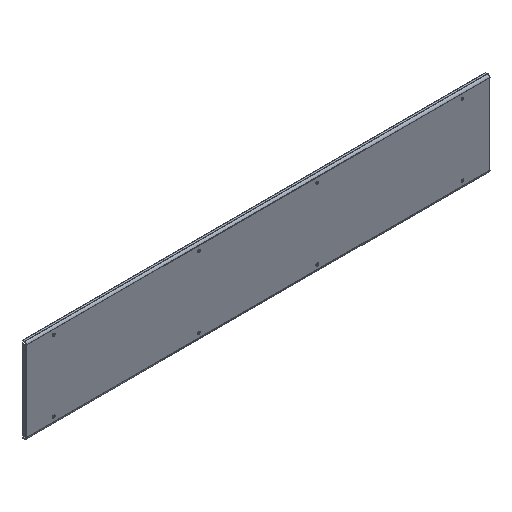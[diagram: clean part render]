
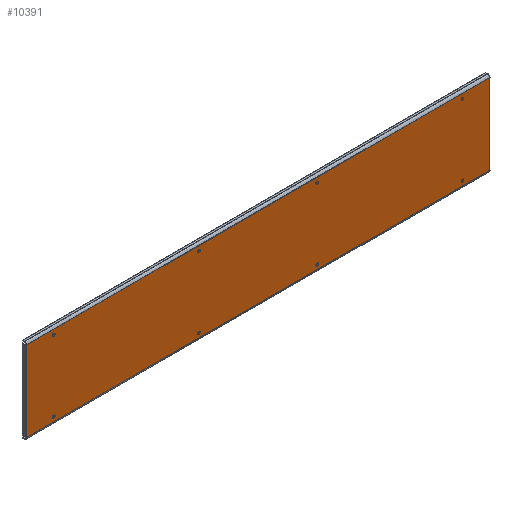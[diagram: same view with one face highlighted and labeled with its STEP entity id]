
A CAD part, isometric view. The second image highlights one B-rep face of the part: STEP entity #10391.
In plain terms, the highlighted planar face has unit normal (0, -1, 0).
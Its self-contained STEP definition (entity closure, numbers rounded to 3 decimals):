
#8466=CARTESIAN_POINT(' ',(275.,-1.5,-170.5));
#8467=VERTEX_POINT(' ',#8466);
#8481=CARTESIAN_POINT(' ',(275.,-1.5,-164.5));
#8486=DIRECTION(' ',(0.,-1.,0.));
#8491=DIRECTION(' ',(0.,0.,-1.));
#8496=AXIS2_PLACEMENT_3D(' ',#8481,#8486,#8491);
#8501=CIRCLE('',#8496,6.);
#8506=CARTESIAN_POINT(' ',(275.,-1.5,-158.5));
#8507=VERTEX_POINT(' ',#8506);
#8511=EDGE_CURVE(' ',#8467,#8507,#8501,.T.);
#9516=CARTESIAN_POINT(' ',(275.,-1.5,-164.5));
#9521=DIRECTION(' ',(0.,-1.,0.));
#9526=DIRECTION(' ',(0.,0.,1.));
#9531=AXIS2_PLACEMENT_3D(' ',#9516,#9521,#9526);
#9536=CIRCLE('',#9531,6.);
#9541=EDGE_CURVE(' ',#8507,#8467,#9536,.T.);
#9566=DIRECTION(' ',(-0.,-1.,-0.));
#9571=CARTESIAN_POINT(' ',(-1075.25,-1.5,-186.5));
#9576=DIRECTION(' ',(1.,0.,-0.));
#9581=AXIS2_PLACEMENT_3D(' ',#9571,#9566,#9576);
#9586=PLANE('NONE',#9581);
#9591=CARTESIAN_POINT(' ',(1075.25,-1.5,-186.5));
#9596=DIRECTION(' ',(0.,0.,1.));
#9601=VECTOR(' ',#9596,1.);
#9606=LINE('',#9591,#9601);
#9611=CARTESIAN_POINT(' ',(1075.25,-1.5,-186.5));
#9612=VERTEX_POINT(' ',#9611);
#9616=CARTESIAN_POINT(' ',(1075.25,-1.5,186.5));
#9617=VERTEX_POINT(' ',#9616);
#9621=EDGE_CURVE(' ',#9612,#9617,#9606,.T.);
#9626=ORIENTED_EDGE(' ',*,*,#9621,.T.);
#9631=CARTESIAN_POINT(' ',(1075.25,-1.5,186.5));
#9636=DIRECTION(' ',(-1.,0.,0.));
#9641=VECTOR(' ',#9636,1.);
#9646=LINE('',#9631,#9641);
#9651=CARTESIAN_POINT(' ',(-1075.25,-1.5,186.5));
#9652=VERTEX_POINT(' ',#9651);
#9656=EDGE_CURVE(' ',#9617,#9652,#9646,.T.);
#9661=ORIENTED_EDGE(' ',*,*,#9656,.T.);
#9666=CARTESIAN_POINT(' ',(-1075.25,-1.5,186.5));
#9671=DIRECTION(' ',(0.,0.,-1.));
#9676=VECTOR(' ',#9671,1.);
#9681=LINE('',#9666,#9676);
#9686=CARTESIAN_POINT(' ',(-1075.25,-1.5,-186.5));
#9687=VERTEX_POINT(' ',#9686);
#9691=EDGE_CURVE(' ',#9652,#9687,#9681,.T.);
#9696=ORIENTED_EDGE(' ',*,*,#9691,.T.);
#9701=CARTESIAN_POINT(' ',(-1075.25,-1.5,-186.5));
#9706=DIRECTION(' ',(1.,0.,0.));
#9711=VECTOR(' ',#9706,1.);
#9716=LINE('',#9701,#9711);
#9721=EDGE_CURVE(' ',#9687,#9612,#9716,.T.);
#9726=ORIENTED_EDGE(' ',*,*,#9721,.T.);
#9731=EDGE_LOOP(' ',(#9626,#9661,#9696,#9726));
#9736=FACE_OUTER_BOUND(' ',#9731,.T.);
#9741=ORIENTED_EDGE(' ',*,*,#9541,.F.);
#9746=ORIENTED_EDGE(' ',*,*,#8511,.F.);
#9751=EDGE_LOOP(' ',(#9741,#9746));
#9756=FACE_BOUND(' ',#9751,.T.);
#9761=CARTESIAN_POINT(' ',(950.,-1.5,-164.5));
#9766=DIRECTION(' ',(0.,-1.,0.));
#9771=DIRECTION(' ',(0.,0.,1.));
#9776=AXIS2_PLACEMENT_3D(' ',#9761,#9766,#9771);
#9781=CIRCLE('',#9776,6.);
#9786=CARTESIAN_POINT(' ',(950.,-1.5,-158.5));
#9787=VERTEX_POINT(' ',#9786);
#9791=CARTESIAN_POINT(' ',(950.,-1.5,-170.5));
#9792=VERTEX_POINT(' ',#9791);
#9796=EDGE_CURVE(' ',#9787,#9792,#9781,.T.);
#9801=ORIENTED_EDGE(' ',*,*,#9796,.F.);
#9806=CARTESIAN_POINT(' ',(950.,-1.5,-164.5));
#9811=DIRECTION(' ',(0.,-1.,0.));
#9816=DIRECTION(' ',(0.,0.,-1.));
#9821=AXIS2_PLACEMENT_3D(' ',#9806,#9811,#9816);
#9826=CIRCLE('',#9821,6.);
#9831=EDGE_CURVE(' ',#9792,#9787,#9826,.T.);
#9836=ORIENTED_EDGE(' ',*,*,#9831,.F.);
#9841=EDGE_LOOP(' ',(#9801,#9836));
#9846=FACE_BOUND(' ',#9841,.T.);
#9851=CARTESIAN_POINT(' ',(950.,-1.5,164.5));
#9856=DIRECTION(' ',(0.,1.,0.));
#9861=DIRECTION(' ',(0.,0.,-1.));
#9866=AXIS2_PLACEMENT_3D(' ',#9851,#9856,#9861);
#9871=CIRCLE('',#9866,6.);
#9876=CARTESIAN_POINT(' ',(950.,-1.5,158.5));
#9877=VERTEX_POINT(' ',#9876);
#9881=CARTESIAN_POINT(' ',(950.,-1.5,170.5));
#9882=VERTEX_POINT(' ',#9881);
#9886=EDGE_CURVE(' ',#9877,#9882,#9871,.T.);
#9891=ORIENTED_EDGE(' ',*,*,#9886,.T.);
#9896=CARTESIAN_POINT(' ',(950.,-1.5,164.5));
#9901=DIRECTION(' ',(0.,1.,0.));
#9906=DIRECTION(' ',(0.,0.,1.));
#9911=AXIS2_PLACEMENT_3D(' ',#9896,#9901,#9906);
#9916=CIRCLE('',#9911,6.);
#9921=EDGE_CURVE(' ',#9882,#9877,#9916,.T.);
#9926=ORIENTED_EDGE(' ',*,*,#9921,.T.);
#9931=EDGE_LOOP(' ',(#9891,#9926));
#9936=FACE_BOUND(' ',#9931,.T.);
#9941=CARTESIAN_POINT(' ',(-275.,-1.5,164.5));
#9946=DIRECTION(' ',(0.,-1.,0.));
#9951=DIRECTION(' ',(0.,0.,-1.));
#9956=AXIS2_PLACEMENT_3D(' ',#9941,#9946,#9951);
#9961=CIRCLE('',#9956,6.);
#9966=CARTESIAN_POINT(' ',(-275.,-1.5,158.5));
#9967=VERTEX_POINT(' ',#9966);
#9971=CARTESIAN_POINT(' ',(-275.,-1.5,170.5));
#9972=VERTEX_POINT(' ',#9971);
#9976=EDGE_CURVE(' ',#9967,#9972,#9961,.T.);
#9981=ORIENTED_EDGE(' ',*,*,#9976,.F.);
#9986=CARTESIAN_POINT(' ',(-275.,-1.5,164.5));
#9991=DIRECTION(' ',(0.,-1.,0.));
#9996=DIRECTION(' ',(0.,0.,1.));
#10001=AXIS2_PLACEMENT_3D(' ',#9986,#9991,#9996);
#10006=CIRCLE('',#10001,6.);
#10011=EDGE_CURVE(' ',#9972,#9967,#10006,.T.);
#10016=ORIENTED_EDGE(' ',*,*,#10011,.F.);
#10021=EDGE_LOOP(' ',(#9981,#10016));
#10026=FACE_BOUND(' ',#10021,.T.);
#10031=CARTESIAN_POINT(' ',(-950.,-1.5,164.5));
#10036=DIRECTION(' ',(0.,-1.,0.));
#10041=DIRECTION(' ',(0.,0.,-1.));
#10046=AXIS2_PLACEMENT_3D(' ',#10031,#10036,#10041);
#10051=CIRCLE('',#10046,6.);
#10056=CARTESIAN_POINT(' ',(-950.,-1.5,158.5));
#10057=VERTEX_POINT(' ',#10056);
#10061=CARTESIAN_POINT(' ',(-950.,-1.5,170.5));
#10062=VERTEX_POINT(' ',#10061);
#10066=EDGE_CURVE(' ',#10057,#10062,#10051,.T.);
#10071=ORIENTED_EDGE(' ',*,*,#10066,.F.);
#10076=CARTESIAN_POINT(' ',(-950.,-1.5,164.5));
#10081=DIRECTION(' ',(0.,-1.,0.));
#10086=DIRECTION(' ',(0.,0.,1.));
#10091=AXIS2_PLACEMENT_3D(' ',#10076,#10081,#10086);
#10096=CIRCLE('',#10091,6.);
#10101=EDGE_CURVE(' ',#10062,#10057,#10096,.T.);
#10106=ORIENTED_EDGE(' ',*,*,#10101,.F.);
#10111=EDGE_LOOP(' ',(#10071,#10106));
#10116=FACE_BOUND(' ',#10111,.T.);
#10121=CARTESIAN_POINT(' ',(-950.,-1.5,-164.5));
#10126=DIRECTION(' ',(0.,1.,0.));
#10131=DIRECTION(' ',(0.,0.,1.));
#10136=AXIS2_PLACEMENT_3D(' ',#10121,#10126,#10131);
#10141=CIRCLE('',#10136,6.);
#10146=CARTESIAN_POINT(' ',(-950.,-1.5,-158.5));
#10147=VERTEX_POINT(' ',#10146);
#10151=CARTESIAN_POINT(' ',(-950.,-1.5,-170.5));
#10152=VERTEX_POINT(' ',#10151);
#10156=EDGE_CURVE(' ',#10147,#10152,#10141,.T.);
#10161=ORIENTED_EDGE(' ',*,*,#10156,.T.);
#10166=CARTESIAN_POINT(' ',(-950.,-1.5,-164.5));
#10171=DIRECTION(' ',(0.,1.,0.));
#10176=DIRECTION(' ',(0.,0.,-1.));
#10181=AXIS2_PLACEMENT_3D(' ',#10166,#10171,#10176);
#10186=CIRCLE('',#10181,6.);
#10191=EDGE_CURVE(' ',#10152,#10147,#10186,.T.);
#10196=ORIENTED_EDGE(' ',*,*,#10191,.T.);
#10201=EDGE_LOOP(' ',(#10161,#10196));
#10206=FACE_BOUND(' ',#10201,.T.);
#10211=CARTESIAN_POINT(' ',(275.,-1.5,164.5));
#10216=DIRECTION(' ',(0.,1.,0.));
#10221=DIRECTION(' ',(0.,0.,-1.));
#10226=AXIS2_PLACEMENT_3D(' ',#10211,#10216,#10221);
#10231=CIRCLE('',#10226,6.);
#10236=CARTESIAN_POINT(' ',(275.,-1.5,158.5));
#10237=VERTEX_POINT(' ',#10236);
#10241=CARTESIAN_POINT(' ',(275.,-1.5,170.5));
#10242=VERTEX_POINT(' ',#10241);
#10246=EDGE_CURVE(' ',#10237,#10242,#10231,.T.);
#10251=ORIENTED_EDGE(' ',*,*,#10246,.T.);
#10256=CARTESIAN_POINT(' ',(275.,-1.5,164.5));
#10261=DIRECTION(' ',(0.,1.,0.));
#10266=DIRECTION(' ',(0.,0.,1.));
#10271=AXIS2_PLACEMENT_3D(' ',#10256,#10261,#10266);
#10276=CIRCLE('',#10271,6.);
#10281=EDGE_CURVE(' ',#10242,#10237,#10276,.T.);
#10286=ORIENTED_EDGE(' ',*,*,#10281,.T.);
#10291=EDGE_LOOP(' ',(#10251,#10286));
#10296=FACE_BOUND(' ',#10291,.T.);
#10301=CARTESIAN_POINT(' ',(-275.,-1.5,-164.5));
#10306=DIRECTION(' ',(0.,1.,0.));
#10311=DIRECTION(' ',(0.,0.,1.));
#10316=AXIS2_PLACEMENT_3D(' ',#10301,#10306,#10311);
#10321=CIRCLE('',#10316,6.);
#10326=CARTESIAN_POINT(' ',(-275.,-1.5,-158.5));
#10327=VERTEX_POINT(' ',#10326);
#10331=CARTESIAN_POINT(' ',(-275.,-1.5,-170.5));
#10332=VERTEX_POINT(' ',#10331);
#10336=EDGE_CURVE(' ',#10327,#10332,#10321,.T.);
#10341=ORIENTED_EDGE(' ',*,*,#10336,.T.);
#10346=CARTESIAN_POINT(' ',(-275.,-1.5,-164.5));
#10351=DIRECTION(' ',(0.,1.,0.));
#10356=DIRECTION(' ',(0.,0.,-1.));
#10361=AXIS2_PLACEMENT_3D(' ',#10346,#10351,#10356);
#10366=CIRCLE('',#10361,6.);
#10371=EDGE_CURVE(' ',#10332,#10327,#10366,.T.);
#10376=ORIENTED_EDGE(' ',*,*,#10371,.T.);
#10381=EDGE_LOOP(' ',(#10341,#10376));
#10386=FACE_BOUND(' ',#10381,.T.);
#10391=ADVANCED_FACE('NONE',(#9736,#9756,#9846,#9936,#10026,#10116,#10206,#10296,#10386),#9586,.T.);
